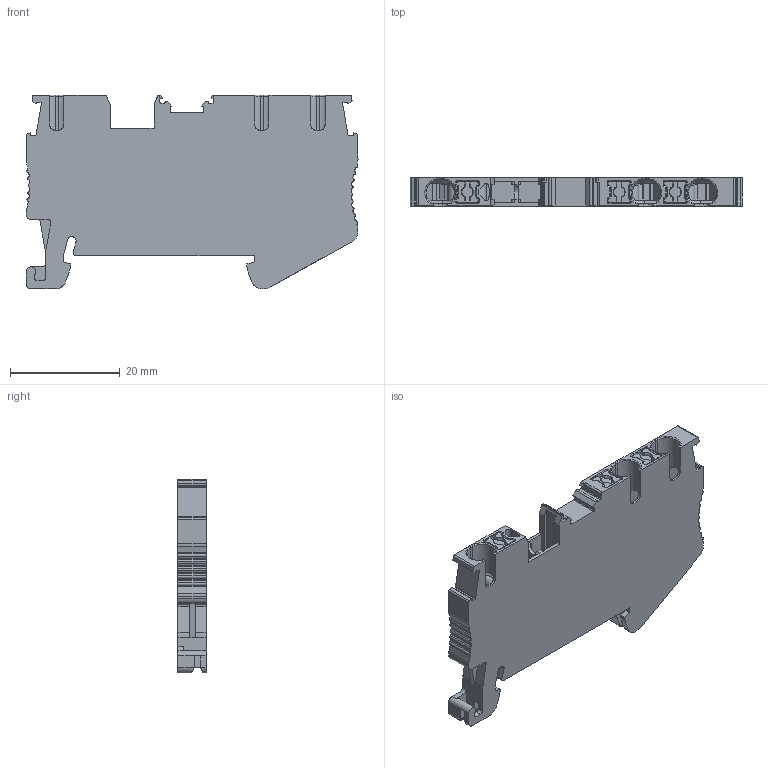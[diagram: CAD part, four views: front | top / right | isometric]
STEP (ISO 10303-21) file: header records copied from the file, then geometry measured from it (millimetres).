
FILE_DESCRIPTION((''),'2;1');
FILE_NAME('UPT-2_5-1-2_ASSY','2024-03-29T16:31:42',('Administrator'),(''),'CREO PARAMETRIC BY PTC INC, 2018050','CREO PARAMETRIC BY PTC INC, 2018050','');
FILE_SCHEMA(('CONFIG_CONTROL_DESIGN'));
Length unit declared in the file: millimetre
Products named in the file (1): UPT-2_5-1-2_ASSY
Bounding box: 60.4 x 5.15 x 35.25 mm (x, y, z)
Volume: 7473.2 mm3; surface area: 6561.2 mm2
Topology: 1 solids, 2 shells, 760 faces, 2159 edges, 1396 vertices
Faces by surface type: plane 397, cylinder 264, cone 57, torus 18, extrusion 12, bspline 12
Entity records: 25732 total; most frequent: CARTESIAN_POINT 5900, ORIENTED_EDGE 4294, DIRECTION 4011, EDGE_CURVE 2147, VECTOR 1411, LINE 1399, VERTEX_POINT 1396, AXIS2_PLACEMENT_3D 1300
